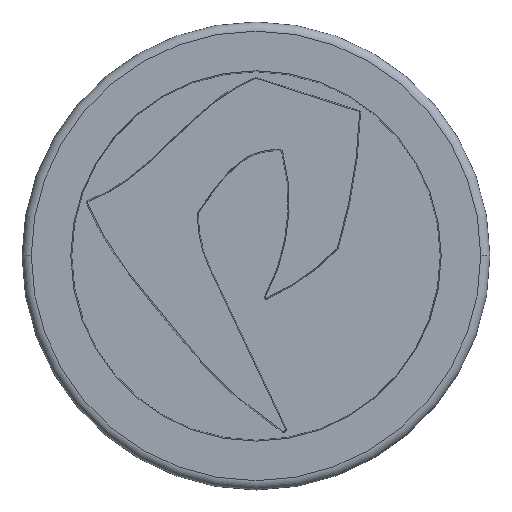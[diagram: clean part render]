
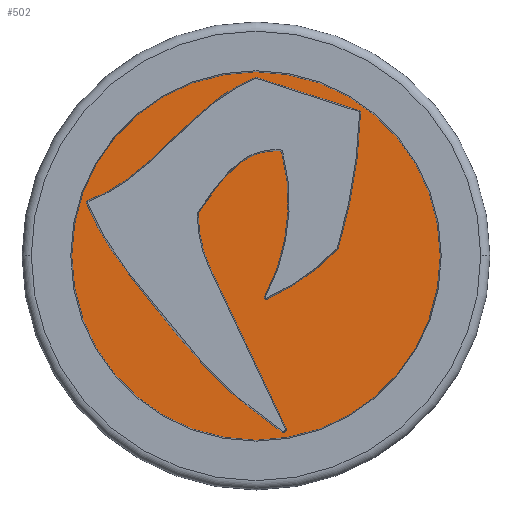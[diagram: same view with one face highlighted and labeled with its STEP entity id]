
A CAD part, top view. The second image highlights one B-rep face of the part: STEP entity #502.
In plain terms, the highlighted planar face has unit normal (0, 0, 1).
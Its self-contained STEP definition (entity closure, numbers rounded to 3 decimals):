
#2=CARTESIAN_POINT('',(0.,0.,0.));
#3=DIRECTION('',(0.,0.,1.));
#4=DIRECTION('',(-1.,0.,0.));
#5=AXIS2_PLACEMENT_3D('',#2,#3,#4);
#7=CARTESIAN_POINT('',(0.,0.,0.));
#8=DIRECTION('',(0.,0.,1.));
#9=DIRECTION('',(1.,0.,0.));
#10=AXIS2_PLACEMENT_3D('',#7,#8,#9);
#12=CARTESIAN_POINT('',(-9.03,2.9,0.));
#13=DIRECTION('',(0.,0.,1.));
#14=DIRECTION('',(0.881,-0.473,0.));
#15=AXIS2_PLACEMENT_3D('',#12,#13,#14);
#17=CARTESIAN_POINT('',(-4.36,8.8,0.));
#18=DIRECTION('',(0.,0.,1.));
#19=DIRECTION('',(0.407,-0.914,0.));
#20=AXIS2_PLACEMENT_3D('',#17,#18,#19);
#22=CARTESIAN_POINT('',(-23.403,8.8,0.));
#23=DIRECTION('',(0.,0.,1.));
#24=DIRECTION('',(0.957,-0.289,0.));
#25=AXIS2_PLACEMENT_3D('',#22,#23,#24);
#27=DIRECTION('',(-0.951,0.308,0.));
#28=VECTOR('',#27,5.862);
#29=CARTESIAN_POINT('',(5.611,7.885,0.));
#30=LINE('',#29,#28);
#31=CARTESIAN_POINT('',(-9.138,3.004,0.));
#32=CARTESIAN_POINT('',(-7.777,3.492,0.));
#33=CARTESIAN_POINT('',(-4.967,5.659,0.));
#34=CARTESIAN_POINT('',(-2.425,8.638,0.));
#35=CARTESIAN_POINT('',(-0.259,9.6,0.));
#36=CARTESIAN_POINT('',(-0.033,9.687,0.));
#38=CARTESIAN_POINT('',(1.415,-9.555,0.));
#39=CARTESIAN_POINT('',(-0.058,-8.546,0.));
#40=CARTESIAN_POINT('',(-2.39,-6.677,0.));
#41=CARTESIAN_POINT('',(-5.437,-2.821,0.));
#42=CARTESIAN_POINT('',(-7.882,0.071,0.));
#43=CARTESIAN_POINT('',(-8.978,2.308,0.));
#44=CARTESIAN_POINT('',(-9.197,2.874,0.));
#46=CARTESIAN_POINT('',(1.5,-9.431,0.));
#47=DIRECTION('',(0.,0.,1.));
#48=DIRECTION('',(-0.565,-0.825,0.));
#49=AXIS2_PLACEMENT_3D('',#46,#47,#48);
#51=DIRECTION('',(-0.427,0.904,0.));
#52=VECTOR('',#51,9.688);
#53=CARTESIAN_POINT('',(1.636,-9.367,0.));
#54=LINE('',#53,#52);
#55=CARTESIAN_POINT('',(3.536,2.24,0.));
#56=DIRECTION('',(0.,0.,1.));
#57=DIRECTION('',(-1.,0.006,0.));
#58=AXIS2_PLACEMENT_3D('',#55,#56,#57);
#60=CARTESIAN_POINT('',(-3.034,2.279,0.));
#61=DIRECTION('',(0.,0.,1.));
#62=DIRECTION('',(-0.825,0.565,0.));
#63=AXIS2_PLACEMENT_3D('',#60,#61,#62);
#65=CARTESIAN_POINT('',(1.308,5.706,0.));
#66=CARTESIAN_POINT('',(0.898,5.734,0.));
#67=CARTESIAN_POINT('',(-0.259,5.601,0.));
#68=CARTESIAN_POINT('',(-1.685,4.449,0.));
#69=CARTESIAN_POINT('',(-2.64,3.03,0.));
#70=CARTESIAN_POINT('',(-3.117,2.335,0.));
#72=CARTESIAN_POINT('',(1.302,5.606,0.));
#73=DIRECTION('',(0.,0.,1.));
#74=DIRECTION('',(0.967,0.253,0.));
#75=AXIS2_PLACEMENT_3D('',#72,#73,#74);
#151=CARTESIAN_POINT('',(0.557,-2.245,0.));
#152=DIRECTION('',(0.,0.,-1.));
#153=DIRECTION('',(0.407,-0.914,0.));
#154=AXIS2_PLACEMENT_3D('',#151,#152,#153);
#277=CARTESIAN_POINT('',(-9.104,2.91,0.));
#278=DIRECTION('',(0.,0.,-1.));
#279=DIRECTION('',(-0.933,-0.361,0.));
#280=AXIS2_PLACEMENT_3D('',#277,#278,#279);
#290=CARTESIAN_POINT('',(0.003,9.594,0.));
#291=DIRECTION('',(0.,0.,-1.));
#292=DIRECTION('',(-0.36,0.933,0.));
#293=AXIS2_PLACEMENT_3D('',#290,#291,#292);
#303=CARTESIAN_POINT('',(5.58,7.789,0.));
#304=DIRECTION('',(0.,0.,-1.));
#305=DIRECTION('',(0.308,0.951,0.));
#306=AXIS2_PLACEMENT_3D('',#303,#304,#305);
#316=CARTESIAN_POINT('',(4.363,0.429,0.));
#317=DIRECTION('',(0.,0.,-1.));
#318=DIRECTION('',(0.957,-0.289,0.));
#319=AXIS2_PLACEMENT_3D('',#316,#317,#318);
#383=CARTESIAN_POINT('',(-10.,0.,0.));
#384=CARTESIAN_POINT('',(10.,0.,0.));
#385=VERTEX_POINT('',#383);
#386=VERTEX_POINT('',#384);
#393=CARTESIAN_POINT('',(1.415,-9.555,0.));
#394=CARTESIAN_POINT('',(1.636,-9.367,0.));
#395=VERTEX_POINT('',#393);
#396=VERTEX_POINT('',#394);
#397=CARTESIAN_POINT('',(-2.497,-0.605,0.));
#398=VERTEX_POINT('',#397);
#399=CARTESIAN_POINT('',(-3.117,2.335,0.));
#401=VERTEX_POINT('',#399);
#403=CARTESIAN_POINT('',(-3.134,2.279,0.));
#404=VERTEX_POINT('',#403);
#407=CARTESIAN_POINT('',(1.398,5.631,0.));
#409=VERTEX_POINT('',#407);
#411=CARTESIAN_POINT('',(1.308,5.706,0.));
#412=VERTEX_POINT('',#411);
#416=CARTESIAN_POINT('',(-9.138,3.004,0.));
#418=VERTEX_POINT('',#416);
#421=CARTESIAN_POINT('',(-9.197,2.874,0.));
#422=VERTEX_POINT('',#421);
#424=CARTESIAN_POINT('',(0.468,-2.198,0.));
#426=VERTEX_POINT('',#424);
#429=CARTESIAN_POINT('',(0.597,-2.337,0.));
#430=VERTEX_POINT('',#429);
#432=CARTESIAN_POINT('',(4.435,0.359,0.));
#434=VERTEX_POINT('',#432);
#437=CARTESIAN_POINT('',(4.459,0.4,0.));
#438=VERTEX_POINT('',#437);
#440=CARTESIAN_POINT('',(5.68,7.786,0.));
#442=VERTEX_POINT('',#440);
#445=CARTESIAN_POINT('',(5.611,7.885,0.));
#446=VERTEX_POINT('',#445);
#448=CARTESIAN_POINT('',(0.034,9.689,0.));
#450=VERTEX_POINT('',#448);
#453=CARTESIAN_POINT('',(-0.033,9.687,0.));
#454=VERTEX_POINT('',#453);
#455=CARTESIAN_POINT('',(0.,0.,0.));
#456=DIRECTION('',(0.,0.,1.));
#457=DIRECTION('',(1.,0.,0.));
#458=AXIS2_PLACEMENT_3D('',#455,#456,#457);
#459=PLANE('',#458);
#461=ORIENTED_EDGE('',*,*,#460,.F.);
#463=ORIENTED_EDGE('',*,*,#462,.F.);
#464=EDGE_LOOP('',(#461,#463));
#465=FACE_OUTER_BOUND('',#464,.F.);
#467=ORIENTED_EDGE('',*,*,#466,.F.);
#469=ORIENTED_EDGE('',*,*,#468,.F.);
#471=ORIENTED_EDGE('',*,*,#470,.T.);
#473=ORIENTED_EDGE('',*,*,#472,.F.);
#475=ORIENTED_EDGE('',*,*,#474,.T.);
#477=ORIENTED_EDGE('',*,*,#476,.F.);
#479=ORIENTED_EDGE('',*,*,#478,.T.);
#481=ORIENTED_EDGE('',*,*,#480,.F.);
#483=ORIENTED_EDGE('',*,*,#482,.F.);
#485=ORIENTED_EDGE('',*,*,#484,.F.);
#487=ORIENTED_EDGE('',*,*,#486,.F.);
#489=ORIENTED_EDGE('',*,*,#488,.T.);
#491=ORIENTED_EDGE('',*,*,#490,.T.);
#493=ORIENTED_EDGE('',*,*,#492,.F.);
#495=ORIENTED_EDGE('',*,*,#494,.F.);
#497=ORIENTED_EDGE('',*,*,#496,.F.);
#499=ORIENTED_EDGE('',*,*,#498,.F.);
#500=EDGE_LOOP('',(#467,#469,#471,#473,#475,#477,#479,#481,#483,#485,#487,#489,
#491,#493,#495,#497,#499));
#501=FACE_BOUND('',#500,.F.);
#502=ADVANCED_FACE('',(#465,#501),#459,.T.);
#6=CIRCLE('',#5,10.);
#11=CIRCLE('',#10,10.);
#16=CIRCLE('',#15,10.78);
#21=CIRCLE('',#20,12.19);
#26=CIRCLE('',#25,29.1);
#37=B_SPLINE_CURVE_WITH_KNOTS('',3,(#31,#32,#33,#34,#35,#36),.UNSPECIFIED.,.F.,
.F.,(4,1,1,4),(0.,0.372,0.936,1.),.UNSPECIFIED.);
#45=B_SPLINE_CURVE_WITH_KNOTS('',3,(#38,#39,#40,#41,#42,#43,#44),.UNSPECIFIED.,
.F.,.F.,(4,1,1,1,4),(0.,0.317,0.547,0.891,
1.),.UNSPECIFIED.);
#50=CIRCLE('',#49,0.15);
#59=CIRCLE('',#58,6.67);
#64=CIRCLE('',#63,0.1);
#71=B_SPLINE_CURVE_WITH_KNOTS('',3,(#65,#66,#67,#68,#69,#70),.UNSPECIFIED.,.F.,
.F.,(4,1,1,4),(0.,0.201,0.616,1.),.UNSPECIFIED.);
#76=CIRCLE('',#75,0.1);
#155=CIRCLE('',#154,0.1);
#281=CIRCLE('',#280,0.1);
#294=CIRCLE('',#293,0.1);
#307=CIRCLE('',#306,0.1);
#320=CIRCLE('',#319,0.1);
#460=EDGE_CURVE('',#385,#386,#6,.T.);
#462=EDGE_CURVE('',#386,#385,#11,.T.);
#466=EDGE_CURVE('',#426,#409,#16,.T.);
#468=EDGE_CURVE('',#430,#426,#155,.T.);
#470=EDGE_CURVE('',#430,#434,#21,.T.);
#472=EDGE_CURVE('',#438,#434,#320,.T.);
#474=EDGE_CURVE('',#438,#442,#26,.T.);
#476=EDGE_CURVE('',#446,#442,#307,.T.);
#478=EDGE_CURVE('',#446,#450,#30,.T.);
#480=EDGE_CURVE('',#454,#450,#294,.T.);
#482=EDGE_CURVE('',#418,#454,#37,.T.);
#484=EDGE_CURVE('',#422,#418,#281,.T.);
#486=EDGE_CURVE('',#395,#422,#45,.T.);
#488=EDGE_CURVE('',#395,#396,#50,.T.);
#490=EDGE_CURVE('',#396,#398,#54,.T.);
#492=EDGE_CURVE('',#404,#398,#59,.T.);
#494=EDGE_CURVE('',#401,#404,#64,.T.);
#496=EDGE_CURVE('',#412,#401,#71,.T.);
#498=EDGE_CURVE('',#409,#412,#76,.T.);
